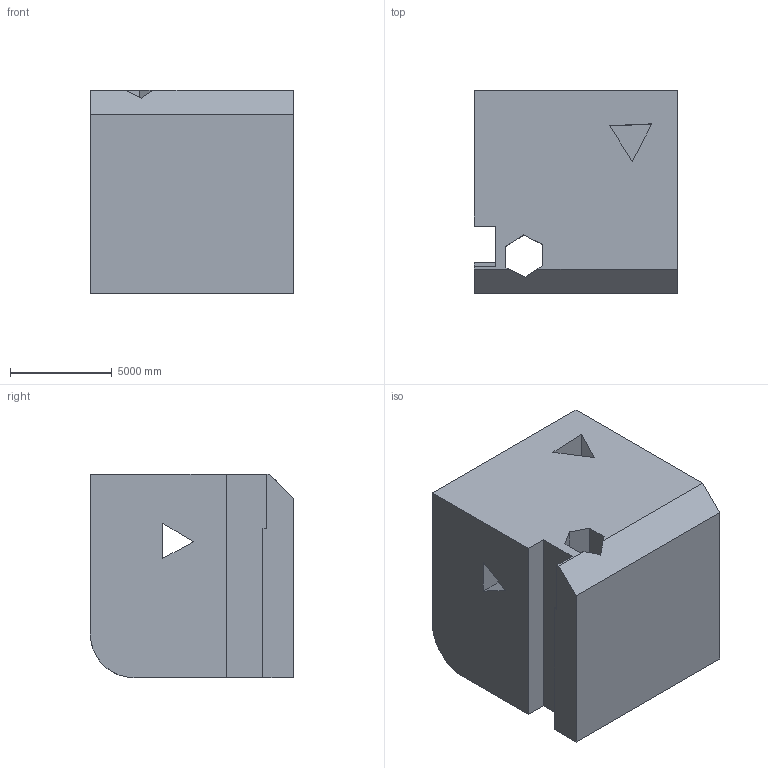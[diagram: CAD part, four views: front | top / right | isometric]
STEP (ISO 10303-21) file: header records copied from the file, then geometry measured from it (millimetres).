
FILE_DESCRIPTION (( 'STEP AP203' ), '1' );
FILE_NAME ('945.STEP', '2022-07-29T14:33:35', ( 'user' ), ( '' ), 'SwSTEP 2.0', 'SolidWorks 2021', '' );
FILE_SCHEMA (( 'CONFIG_CONTROL_DESIGN' ));
Length unit declared in the file: centimetre
Products named in the file (1): 945
Bounding box: 10000 x 10000 x 10000 mm (x, y, z)
Volume: 873853210714.9 mm3; surface area: 806109284.1 mm2
Topology: 1 solids, 1 shells, 41 faces, 120 edges, 80 vertices
Faces by surface type: plane 37, cylinder 4
Entity records: 1429 total; most frequent: CARTESIAN_POINT 254, ORIENTED_EDGE 240, DIRECTION 210, EDGE_CURVE 120, LINE 106, VECTOR 106, VERTEX_POINT 80, AXIS2_PLACEMENT_3D 52
